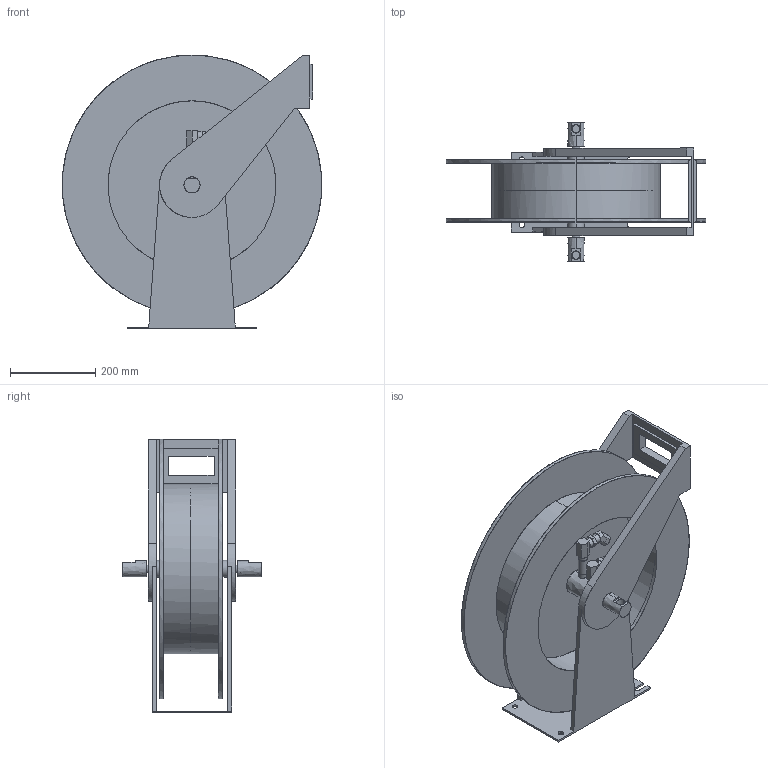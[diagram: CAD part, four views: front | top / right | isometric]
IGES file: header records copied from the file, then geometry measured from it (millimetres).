
Start section: Comment
Global section: file name: TH80000 OMP SW.igs; native system:  By UGS Corp.; preprocessor: XPlus GENERIC/IGES 3.0; author: Author; organization: Title; date: 20120621.082834; units: millimetre
Bounding box: 608.64 x 326.39 x 642.72 mm (x, y, z)
Surface area: 1878087.2 mm2 (no closed solid volume)
Topology: 0 solids, 0 shells, 196 faces, 980 edges, 980 vertices
Faces by surface type: bspline 196
